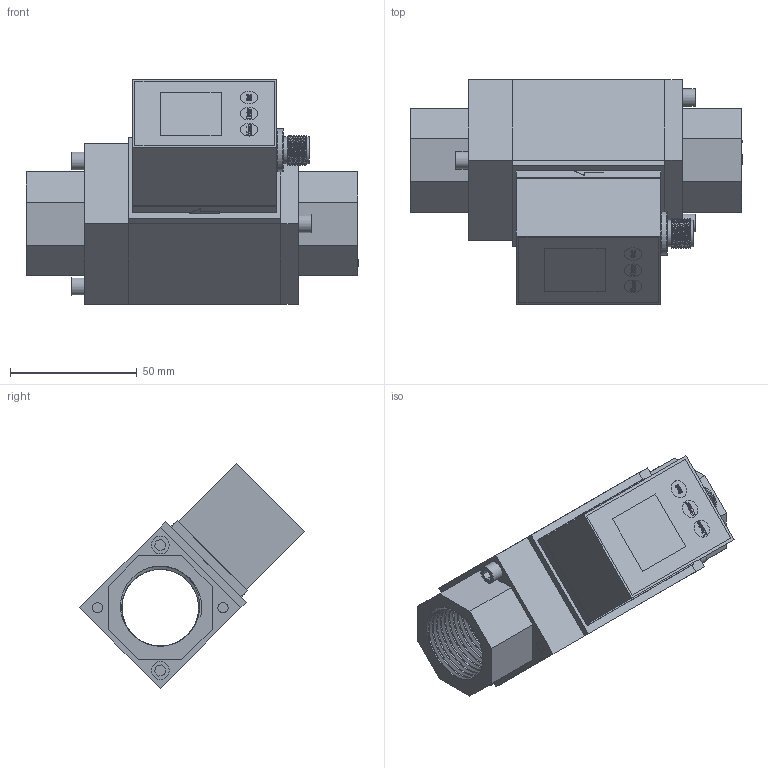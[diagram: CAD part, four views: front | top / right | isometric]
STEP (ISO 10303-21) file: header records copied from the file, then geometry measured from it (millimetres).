
FILE_DESCRIPTION (( 'STEP AP203' ), '1' );
FILE_NAME ('湮講最RC1.STEP', '2024-07-12T01:34:45', ( '' ), ( '' ), 'SwSTEP 2.0', 'SolidWorks 2023', '' );
FILE_SCHEMA (( 'CONFIG_CONTROL_DESIGN' ));
Length unit declared in the file: millimetre
Products named in the file (9): 04-100M12针套（5针）; 100-RC1主体; 03-100M12盘装插座; 02-100显示模块; 大量程RC1; 100-RC1出水口; 08-100固定螺栓; 01-100基座; 100-RC1进水口
Assembly tree (11 placements, depth 2):
  大量程RC1
    01-100基座
    02-100显示模块
    03-100M12盘装插座
    04-100M12针套（5针）
    08-100固定螺栓  x4
    100-RC1出水口
    100-RC1进水口
    100-RC1主体
Bounding box: 131 x 88.67 x 88.67 mm (x, y, z)
Volume: 224363.8 mm3; surface area: 74531.7 mm2
Topology: 11 solids, 11 shells, 391 faces, 978 edges, 653 vertices
Faces by surface type: plane 232, bspline 90, cylinder 61, torus 8
Full cylindrical faces by diameter (mm): 1 x5, 4 x12, 5 x4, 7 x7, 9 x1, 9.5 x2, 10.5 x2, 12 x2, 17 x1, 30.3 x21
Entity records: 20104 total; most frequent: CARTESIAN_POINT 11744, ORIENTED_EDGE 1594, DIRECTION 1192, EDGE_CURVE 797, VERTEX_POINT 556, LINE 520, VECTOR 520, EDGE_LOOP 445
